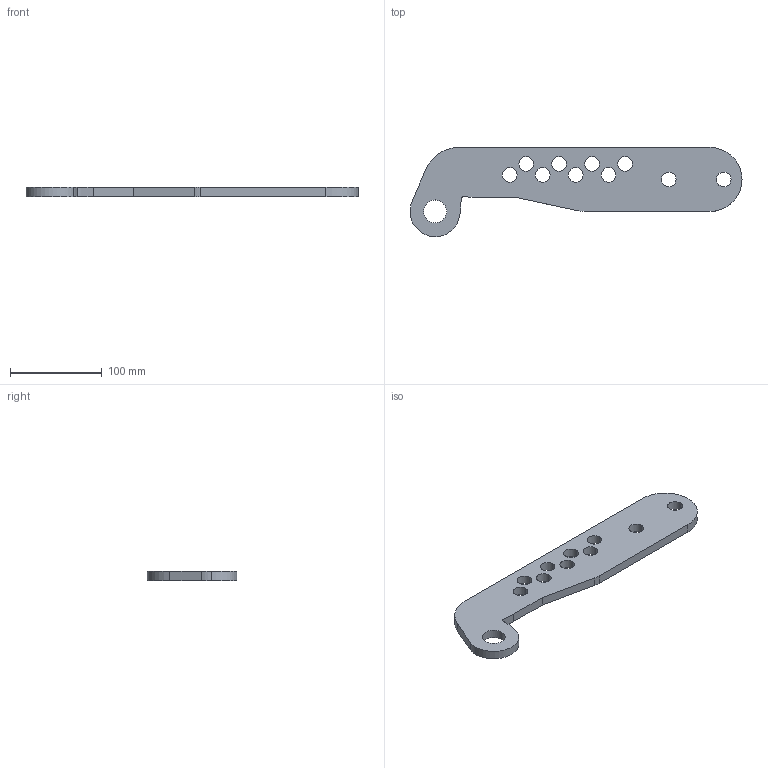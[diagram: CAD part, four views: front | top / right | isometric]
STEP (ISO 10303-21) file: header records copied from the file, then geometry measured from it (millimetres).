
FILE_DESCRIPTION (( 'STEP AP214' ), '1' );
FILE_NAME ('festes Blech.STEP', '2016-12-28T08:44:20', ( '' ), ( '' ), 'SwSTEP 2.0', 'SolidWorks 2016', '' );
FILE_SCHEMA (( 'AUTOMOTIVE_DESIGN' ));
Length unit declared in the file: millimetre
Products named in the file (1): festes Blech
Bounding box: 362.5 x 97.43 x 10 mm (x, y, z)
Volume: 210533.8 mm3; surface area: 56461.2 mm2
Topology: 1 solids, 1 shells, 36 faces, 102 edges, 68 vertices
Faces by surface type: cylinder 27, plane 7, bspline 2
Entity records: 1286 total; most frequent: CARTESIAN_POINT 229, DIRECTION 222, ORIENTED_EDGE 204, EDGE_CURVE 102, AXIS2_PLACEMENT_3D 89, VERTEX_POINT 68, EDGE_LOOP 58, CIRCLE 54
